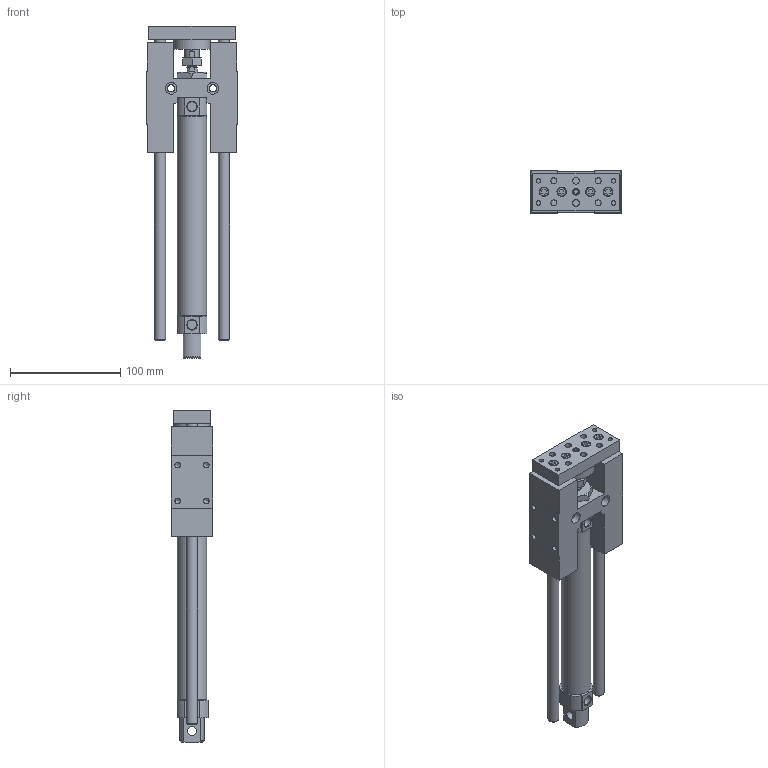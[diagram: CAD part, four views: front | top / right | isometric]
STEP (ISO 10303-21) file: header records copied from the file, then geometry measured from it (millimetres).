
FILE_DESCRIPTION((''),'2;1');
FILE_NAME('I:\3D電子目錄\氣缸\GHB(U)\GHB(U)\GHB(U)25\GHB(U)25x150.stp','2007-10-22T16:51:03',('Administrator'),(''),'Autodesk Inventor 11','Autodesk Inventor 11','');
FILE_SCHEMA(('AUTOMOTIVE_DESIGN { 1 0 10303 214 1 1 1 1 }'));
Length unit declared in the file: millimetre
Products named in the file (1): GHB(U)25
Bounding box: 82 x 38 x 301 mm (x, y, z)
Volume: 397141.6 mm3; surface area: 78560.2 mm2
Topology: 1 solids, 1 shells, 230 faces, 542 edges, 352 vertices
Faces by surface type: plane 131, cylinder 38, bspline 36, cone 25
Full cylindrical faces by diameter (mm): 4.917 x4, 5 x1, 6 x5, 7.5 x4, 8 x1, 8.5 x6, 8.6 x1, 10 x3, 13 x1, 26.6 x1, 33 x1
Entity records: 6522 total; most frequent: CARTESIAN_POINT 1583, DIRECTION 974, ORIENTED_EDGE 928, EDGE_CURVE 464, EDGE_LOOP 358, AXIS2_PLACEMENT_3D 347, VERTEX_POINT 338, VECTOR 280
